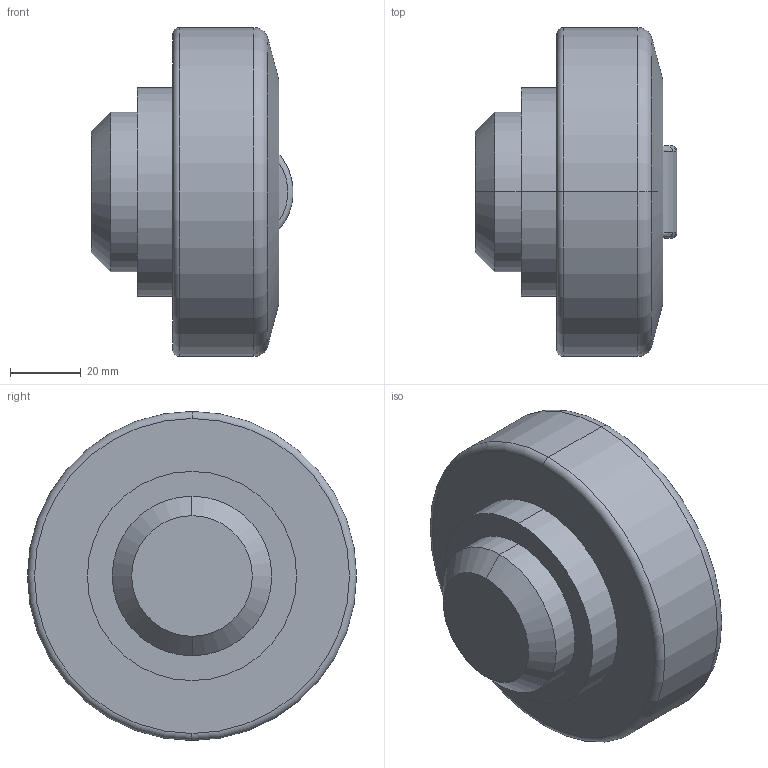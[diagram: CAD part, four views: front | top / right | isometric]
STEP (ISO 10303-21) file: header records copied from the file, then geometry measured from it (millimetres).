
FILE_DESCRIPTION (( 'STEP AP214' ), '1' );
FILE_NAME ('3D 4.0458 PR.STEP', '2013-12-09T09:14:30', ( 'usuario' ), ( 'Hewlett-Packard Company' ), 'SwSTEP 2.0', 'SolidWorks 2017', '' );
FILE_SCHEMA (( 'AUTOMOTIVE_DESIGN' ));
Length unit declared in the file: millimetre
Products named in the file (1): 3D 4.0458 PR
Bounding box: 56.95 x 92.8 x 92.8 mm (x, y, z)
Volume: 241984.2 mm3; surface area: 24055.5 mm2
Topology: 1 solids, 1 shells, 23 faces, 46 edges, 28 vertices
Faces by surface type: cylinder 7, torus 6, plane 6, cone 4
Entity records: 686 total; most frequent: CARTESIAN_POINT 154, DIRECTION 118, ORIENTED_EDGE 92, AXIS2_PLACEMENT_3D 52, EDGE_CURVE 46, VERTEX_POINT 28, CIRCLE 28, EDGE_LOOP 26
